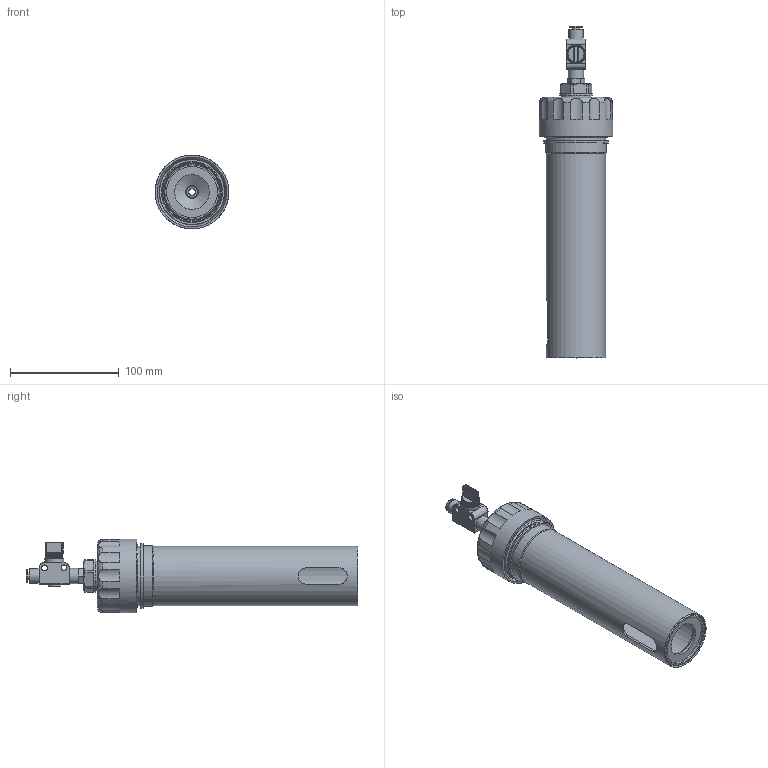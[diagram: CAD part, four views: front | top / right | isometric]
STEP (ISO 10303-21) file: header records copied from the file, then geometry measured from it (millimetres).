
FILE_DESCRIPTION (( 'STEP AP214' ), '1' );
FILE_NAME ('CART310EVO.STEP', '2024-10-14T12:19:59', ( '' ), ( '' ), 'SwSTEP 2.0', 'SolidWorks 2024', '' );
FILE_SCHEMA (( 'AUTOMOTIVE_DESIGN' ));
Length unit declared in the file: millimetre
Products named in the file (1): CART310EVO
Bounding box: 67.94 x 305.8 x 67.94 mm (x, y, z)
Volume: 156241.5 mm3; surface area: 119549.5 mm2
Topology: 7 solids, 7 shells, 500 faces, 1203 edges, 736 vertices
Faces by surface type: cylinder 215, plane 180, bspline 77, cone 28
Full cylindrical faces by diameter (mm): 5 x2, 6 x1, 8 x1, 10 x1, 11 x1, 11.5 x1, 11.8 x1, 12 x1, 13 x1, 14 x1, 17.5 x1, 28.6 x1, 29.6 x1, 30 x2, 30.2 x1, 32 x1, 33 x1, 34.4 x1, 34.8 x1, 35 x1, 41.2 x1, 44.8 x1, 45 x1, 45.8 x2, 47 x1, 50.8 x1, 51 x2, 52 x2, 54 x1, 54.5 x1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
Entity records: 16714 total; most frequent: CARTESIAN_POINT 6130, ORIENTED_EDGE 2196, DIRECTION 2009, EDGE_CURVE 1098, AXIS2_PLACEMENT_3D 738, VERTEX_POINT 711, EDGE_LOOP 619, FACE_OUTER_BOUND 551
